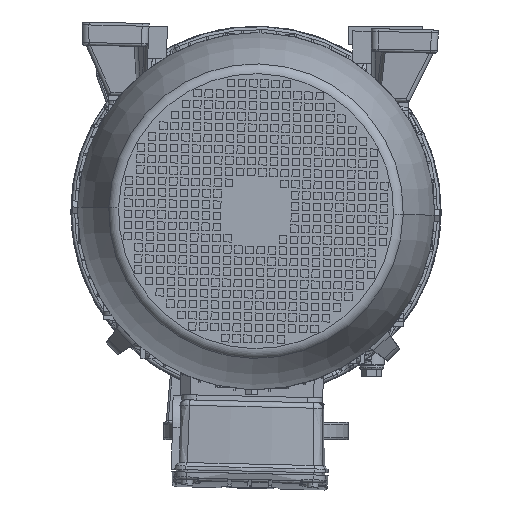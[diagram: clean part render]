
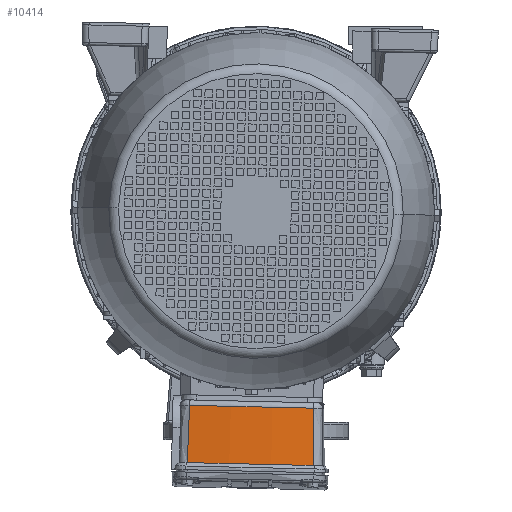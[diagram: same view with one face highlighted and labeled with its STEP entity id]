
A CAD part, front view. The second image highlights one B-rep face of the part: STEP entity #10414.
In plain terms, the highlighted conical face has half-angle 1 degrees and reference radius 666 mm.
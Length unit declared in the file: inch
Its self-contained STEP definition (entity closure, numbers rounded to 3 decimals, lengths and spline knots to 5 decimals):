
#2248 = CARTESIAN_POINT ( 'NONE',  ( -2.67058, 10.36683, 0.11524 ) ) ;
#10414 = ADVANCED_FACE ( 'NONE', ( #78237 ), #77187, .T. ) ;
#24712 = DIRECTION ( 'NONE',  ( 0., 1., 0. ) ) ;
#24750 = VERTEX_POINT ( 'NONE', #375064 ) ;
#25838 = CARTESIAN_POINT ( 'NONE',  ( -2.63667, 8.32265, 0.14765 ) ) ;
#30276 = VERTEX_POINT ( 'NONE', #34771 ) ;
#33560 = AXIS2_PLACEMENT_3D ( 'NONE', #109466, #201267, #228492 ) ;
#34771 = CARTESIAN_POINT ( 'NONE',  ( -2.67708, 10.75928, 0.10902 ) ) ;
#45201 = EDGE_CURVE ( 'NONE', #24750, #30276, #329814, .T. ) ;
#51095 = CARTESIAN_POINT ( 'NONE',  ( 2.67708, 10.75928, 0.10902 ) ) ;
#53014 = CARTESIAN_POINT ( 'NONE',  ( 2.6506, 9.16217, 0.13434 ) ) ;
#61653 = CARTESIAN_POINT ( 'NONE',  ( 2.67708, 10.75928, 0.10902 ) ) ;
#61703 = DIRECTION ( 'NONE',  ( 0., 0., 1. ) ) ;
#66528 = DIRECTION ( 'NONE',  ( 0., 0., 1. ) ) ;
#77187 = CONICAL_SURFACE ( 'NONE', #33560, 26.22047, 0.017 ) ;
#78237 = FACE_OUTER_BOUND ( 'NONE', #301570, .T. ) ;
#81993 = AXIS2_PLACEMENT_3D ( 'NONE', #291887, #24712, #61703 ) ;
#96195 = AXIS2_PLACEMENT_3D ( 'NONE', #148575, #271382, #66528 ) ;
#104217 = B_SPLINE_CURVE_WITH_KNOTS ( 'NONE', 3,
 ( #51095, #290871, #288936, #320089, #53014, #171977, #261634 ),
 .UNSPECIFIED., .F., .F.,
 ( 4, 3, 4 ),
 ( 0.00772, 0.03763, 0.06962 ),
 .UNSPECIFIED. ) ;
#109466 = CARTESIAN_POINT ( 'NONE',  ( 0., 11.06299, 26.18714 ) ) ;
#117471 = CARTESIAN_POINT ( 'NONE',  ( -2.6506, 9.16217, 0.13434 ) ) ;
#122214 = EDGE_CURVE ( 'NONE', #256445, #24750, #181824, .T. ) ;
#132849 = ORIENTED_EDGE ( 'NONE', *, *, #357255, .T. ) ;
#144730 = CARTESIAN_POINT ( 'NONE',  ( -2.66407, 9.97438, 0.12146 ) ) ;
#148575 = CARTESIAN_POINT ( 'NONE',  ( 0., 10.75928, 26.18714 ) ) ;
#150527 = CARTESIAN_POINT ( 'NONE',  ( -2.65756, 9.58193, 0.12768 ) ) ;
#171977 = CARTESIAN_POINT ( 'NONE',  ( 2.64364, 8.74241, 0.14099 ) ) ;
#181824 = CIRCLE ( 'NONE', #81993, 26.17264 ) ;
#201267 = DIRECTION ( 'NONE',  ( 0., 1., 0. ) ) ;
#228492 = DIRECTION ( 'NONE',  ( 0., 0., 1. ) ) ;
#243281 = CARTESIAN_POINT ( 'NONE',  ( 2.63667, 8.32265, 0.14765 ) ) ;
#256445 = VERTEX_POINT ( 'NONE', #243281 ) ;
#260492 = ORIENTED_EDGE ( 'NONE', *, *, #277008, .F. ) ;
#261634 = CARTESIAN_POINT ( 'NONE',  ( 2.63667, 8.32265, 0.14765 ) ) ;
#267634 = CARTESIAN_POINT ( 'NONE',  ( -2.64364, 8.74241, 0.14099 ) ) ;
#271382 = DIRECTION ( 'NONE',  ( 0., 1., 0. ) ) ;
#277008 = EDGE_CURVE ( 'NONE', #322233, #30276, #357998, .T. ) ;
#279738 = ORIENTED_EDGE ( 'NONE', *, *, #122214, .T. ) ;
#288936 = CARTESIAN_POINT ( 'NONE',  ( 2.66407, 9.97438, 0.12146 ) ) ;
#290871 = CARTESIAN_POINT ( 'NONE',  ( 2.67058, 10.36683, 0.11524 ) ) ;
#291887 = CARTESIAN_POINT ( 'NONE',  ( 0., 8.32265, 26.18714 ) ) ;
#301570 = EDGE_LOOP ( 'NONE', ( #132849, #279738, #380228, #260492 ) ) ;
#320089 = CARTESIAN_POINT ( 'NONE',  ( 2.65756, 9.58193, 0.12768 ) ) ;
#322233 = VERTEX_POINT ( 'NONE', #61653 ) ;
#329814 = B_SPLINE_CURVE_WITH_KNOTS ( 'NONE', 3,
 ( #25838, #267634, #117471, #150527, #144730, #2248, #355464 ),
 .UNSPECIFIED., .F., .F.,
 ( 4, 3, 4 ),
 ( 0.0059, 0.03789, 0.0678 ),
 .UNSPECIFIED. ) ;
#355464 = CARTESIAN_POINT ( 'NONE',  ( -2.67708, 10.75928, 0.10902 ) ) ;
#357255 = EDGE_CURVE ( 'NONE', #322233, #256445, #104217, .T. ) ;
#357998 = CIRCLE ( 'NONE', #96195, 26.21517 ) ;
#375064 = CARTESIAN_POINT ( 'NONE',  ( -2.63667, 8.32265, 0.14765 ) ) ;
#380228 = ORIENTED_EDGE ( 'NONE', *, *, #45201, .T. ) ;
